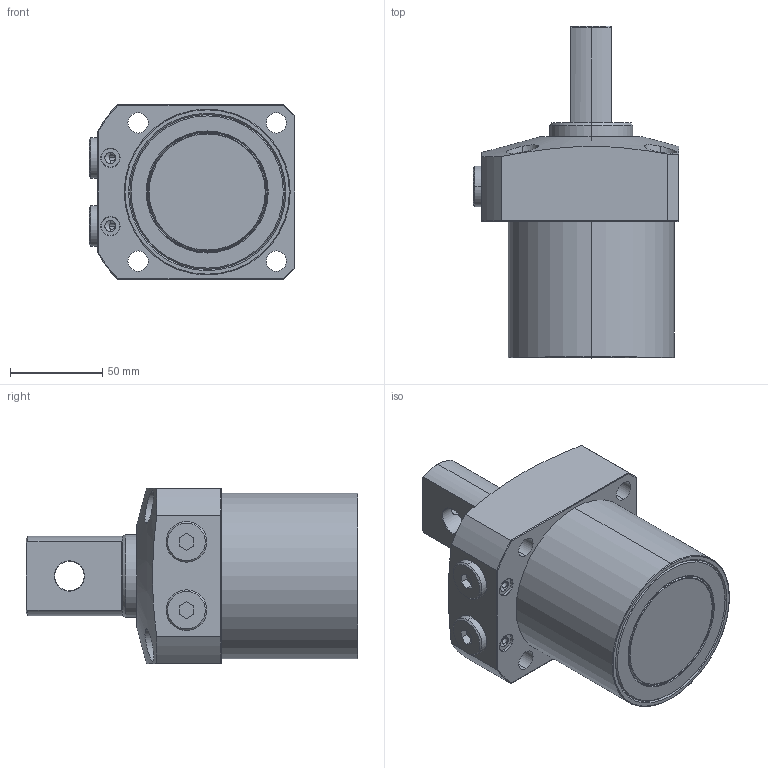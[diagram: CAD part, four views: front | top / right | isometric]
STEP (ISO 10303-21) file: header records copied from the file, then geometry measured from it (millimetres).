
FILE_DESCRIPTION (( 'STEP AP203' ), '1' );
FILE_NAME ('20760-CL-P.step', '2016-11-02T03:03:14', ( 'wxp' ), ( '' ), 'SwSTEP 2.0', 'SolidWorks 2011', '' );
FILE_SCHEMA (( 'CONFIG_CONTROL_DESIGN' ));
Length unit declared in the file: millimetre
Products named in the file (5): 20760-CL-P; 20760-C-P-4^20760-CL-P; 20760-C-P-3^20760-CL-P; 20760-C-P-2^20760-CL-P; 20760-C-P-1^20760-CL-P
Assembly tree (5 placements, depth 2):
  20760-CL-P
    20760-C-P-2^20760-CL-P
    20760-C-P-4^20760-CL-P  x2
    20760-C-P-3^20760-CL-P
    20760-C-P-1^20760-CL-P
Bounding box: 111.5 x 180 x 95 mm (x, y, z)
Volume: 962789.6 mm3; surface area: 90684.1 mm2
Topology: 5 solids, 5 shells, 167 faces, 381 edges, 237 vertices
Faces by surface type: cylinder 65, plane 51, cone 39, torus 12
Entity records: 5598 total; most frequent: CARTESIAN_POINT 1537, DIRECTION 770, ORIENTED_EDGE 706, EDGE_CURVE 353, AXIS2_PLACEMENT_3D 317, VERTEX_POINT 219, EDGE_LOOP 182, CIRCLE 155
